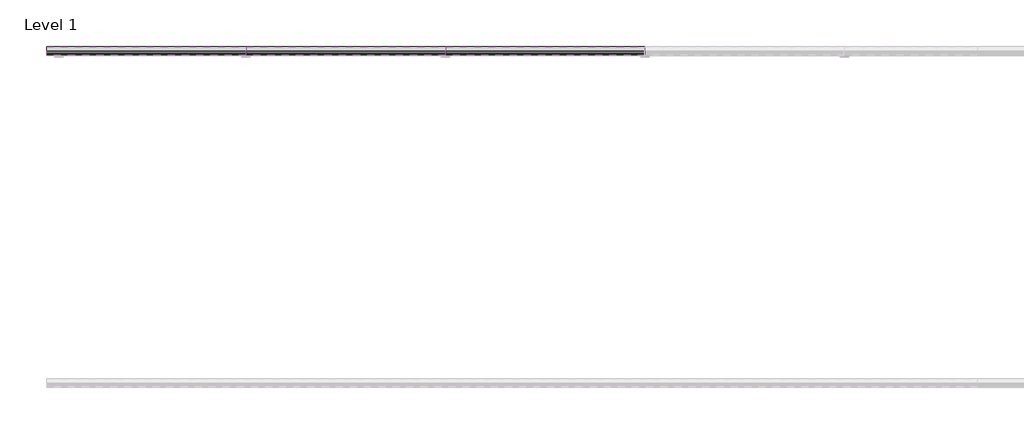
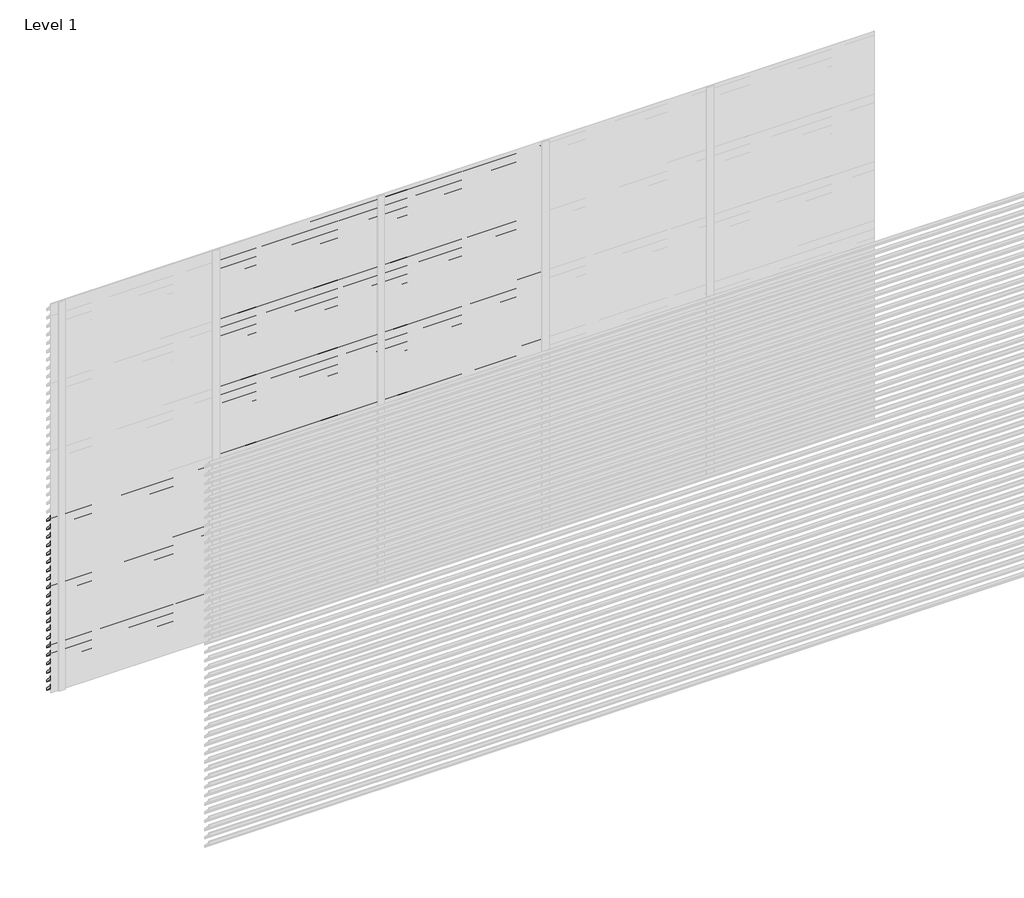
# One storey, part 11 of 12: 102 proxies.
"""IFC4 building model written with IfcOpenShell, lengths in millimetres."""

from ifc_helpers import new_model, si_unit, frame, origin, place, context, project, spatial, polyline, outline, extrude, element, save

model = new_model("IFC4")

# Units and contexts
model_context = context("Model", 3, world=origin())
ifc_project = project(units=[si_unit("LENGTHUNIT", "METRE", prefix="MILLI")], contexts=[model_context])

# Site, building, storey
site = spatial("IfcSite", under=ifc_project)
building = spatial("IfcBuilding", under=site)
storey = spatial("IfcBuildingStorey", under=building, Name="Level 1", Elevation=0.0)

# Proxies
placement = place(None, origin())
element("IfcBuildingElementProxy", 1, Name="Wall Sweeps", at=placement, inside=storey, context=model_context, shape_type="SweptSolid", body=[
    extrude(outline(polyline([(5.0, 1365.0), (5.0, 1355.7409854), (54.0, 1305.0), (54.0, 1289.0), (3.0, 1341.812046), (3.0, 1365.0), (5.0, 1365.0)])), frame((0.0, 0.0, 0.0), z_axis=(1.0, 0.0, 0.0), x_axis=(0.0, 1.0, 0.0)), (0.0, 0.0, 1.0), 1200.0),
])
element("IfcBuildingElementProxy", 2, Name="Wall Sweeps", at=placement, inside=storey, context=model_context, shape_type="SweptSolid", body=[
    extrude(outline(polyline([(5.0, 1300.0), (5.0, 1290.7409854), (54.0, 1240.0), (54.0, 1224.0), (3.0, 1276.812046), (3.0, 1300.0), (5.0, 1300.0)])), frame((0.0, 0.0, 0.0), z_axis=(1.0, 0.0, 0.0), x_axis=(0.0, 1.0, 0.0)), (0.0, 0.0, 1.0), 1200.0),
])
element("IfcBuildingElementProxy", 3, Name="Wall Sweeps", at=placement, inside=storey, context=model_context, shape_type="SweptSolid", body=[
    extrude(outline(polyline([(5.0, 1235.0), (5.0, 1225.7409854), (54.0, 1175.0), (54.0, 1159.0), (3.0, 1211.812046), (3.0, 1235.0), (5.0, 1235.0)])), frame((0.0, 0.0, 0.0), z_axis=(1.0, 0.0, 0.0), x_axis=(0.0, 1.0, 0.0)), (0.0, 0.0, 1.0), 1200.0),
])
element("IfcBuildingElementProxy", 4, Name="Wall Sweeps", at=placement, inside=storey, context=model_context, shape_type="SweptSolid", body=[
    extrude(outline(polyline([(5.0, 1170.0), (5.0, 1160.7409854), (54.0, 1110.0), (54.0, 1094.0), (3.0, 1146.812046), (3.0, 1170.0), (5.0, 1170.0)])), frame((0.0, 0.0, 0.0), z_axis=(1.0, 0.0, 0.0), x_axis=(0.0, 1.0, 0.0)), (0.0, 0.0, 1.0), 1200.0),
])
element("IfcBuildingElementProxy", 5, Name="Wall Sweeps", at=placement, inside=storey, context=model_context, shape_type="SweptSolid", body=[
    extrude(outline(polyline([(5.0, 1105.0), (5.0, 1095.7409854), (54.0, 1045.0), (54.0, 1029.0), (3.0, 1081.812046), (3.0, 1105.0), (5.0, 1105.0)])), frame((0.0, 0.0, 0.0), z_axis=(1.0, 0.0, 0.0), x_axis=(0.0, 1.0, 0.0)), (0.0, 0.0, 1.0), 1200.0),
])
element("IfcBuildingElementProxy", 6, Name="Wall Sweeps", at=placement, inside=storey, context=model_context, shape_type="SweptSolid", body=[
    extrude(outline(polyline([(5.0, 1040.0), (5.0, 1030.7409854), (54.0, 980.0), (54.0, 964.0), (3.0, 1016.812046), (3.0, 1040.0), (5.0, 1040.0)])), frame((0.0, 0.0, 0.0), z_axis=(1.0, 0.0, 0.0), x_axis=(0.0, 1.0, 0.0)), (0.0, 0.0, 1.0), 1200.0),
])
element("IfcBuildingElementProxy", 7, Name="Wall Sweeps", at=placement, inside=storey, context=model_context, shape_type="SweptSolid", body=[
    extrude(outline(polyline([(5.0, 975.0), (5.0, 965.7409854), (54.0, 915.0), (54.0, 899.0), (3.0, 951.812046), (3.0, 975.0), (5.0, 975.0)])), frame((0.0, 0.0, 0.0), z_axis=(1.0, 0.0, 0.0), x_axis=(0.0, 1.0, 0.0)), (0.0, 0.0, 1.0), 1200.0),
])
element("IfcBuildingElementProxy", 8, Name="Wall Sweeps", at=placement, inside=storey, context=model_context, shape_type="SweptSolid", body=[
    extrude(outline(polyline([(5.0, 910.0), (5.0, 900.7409854), (54.0, 850.0), (54.0, 834.0), (3.0, 886.812046), (3.0, 910.0), (5.0, 910.0)])), frame((0.0, 0.0, 0.0), z_axis=(1.0, 0.0, 0.0), x_axis=(0.0, 1.0, 0.0)), (0.0, 0.0, 1.0), 1200.0),
])
element("IfcBuildingElementProxy", 9, Name="Wall Sweeps", at=placement, inside=storey, context=model_context, shape_type="SweptSolid", body=[
    extrude(outline(polyline([(5.0, 845.0), (5.0, 835.7409854), (54.0, 785.0), (54.0, 769.0), (3.0, 821.812046), (3.0, 845.0), (5.0, 845.0)])), frame((0.0, 0.0, 0.0), z_axis=(1.0, 0.0, 0.0), x_axis=(0.0, 1.0, 0.0)), (0.0, 0.0, 1.0), 1200.0),
])
element("IfcBuildingElementProxy", 10, Name="Wall Sweeps", at=placement, inside=storey, context=model_context, shape_type="SweptSolid", body=[
    extrude(outline(polyline([(5.0, 780.0), (5.0, 770.7409854), (54.0, 720.0), (54.0, 704.0), (3.0, 756.812046), (3.0, 780.0), (5.0, 780.0)])), frame((0.0, 0.0, 0.0), z_axis=(1.0, 0.0, 0.0), x_axis=(0.0, 1.0, 0.0)), (0.0, 0.0, 1.0), 1200.0),
])
element("IfcBuildingElementProxy", 11, Name="Wall Sweeps", at=placement, inside=storey, context=model_context, shape_type="SweptSolid", body=[
    extrude(outline(polyline([(5.0, 715.0), (5.0, 705.7409854), (54.0, 655.0), (54.0, 639.0), (3.0, 691.812046), (3.0, 715.0), (5.0, 715.0)])), frame((0.0, 0.0, 0.0), z_axis=(1.0, 0.0, 0.0), x_axis=(0.0, 1.0, 0.0)), (0.0, 0.0, 1.0), 1200.0),
])
element("IfcBuildingElementProxy", 12, Name="Wall Sweeps", at=placement, inside=storey, context=model_context, shape_type="SweptSolid", body=[
    extrude(outline(polyline([(5.0, 650.0), (5.0, 640.7409854), (54.0, 590.0), (54.0, 574.0), (3.0, 626.812046), (3.0, 650.0), (5.0, 650.0)])), frame((0.0, 0.0, 0.0), z_axis=(1.0, 0.0, 0.0), x_axis=(0.0, 1.0, 0.0)), (0.0, 0.0, 1.0), 1200.0),
])
element("IfcBuildingElementProxy", 13, Name="Wall Sweeps", at=placement, inside=storey, context=model_context, shape_type="SweptSolid", body=[
    extrude(outline(polyline([(5.0, 585.0), (5.0, 575.7409854), (54.0, 525.0), (54.0, 509.0), (3.0, 561.812046), (3.0, 585.0), (5.0, 585.0)])), frame((0.0, 0.0, 0.0), z_axis=(1.0, 0.0, 0.0), x_axis=(0.0, 1.0, 0.0)), (0.0, 0.0, 1.0), 1200.0),
])
element("IfcBuildingElementProxy", 14, Name="Wall Sweeps", at=placement, inside=storey, context=model_context, shape_type="SweptSolid", body=[
    extrude(outline(polyline([(5.0, 520.0), (5.0, 510.7409854), (54.0, 460.0), (54.0, 444.0), (3.0, 496.812046), (3.0, 520.0), (5.0, 520.0)])), frame((0.0, 0.0, 0.0), z_axis=(1.0, 0.0, 0.0), x_axis=(0.0, 1.0, 0.0)), (0.0, 0.0, 1.0), 1200.0),
])
element("IfcBuildingElementProxy", 15, Name="Wall Sweeps", at=placement, inside=storey, context=model_context, shape_type="SweptSolid", body=[
    extrude(outline(polyline([(5.0, 455.0), (5.0, 445.7409854), (54.0, 395.0), (54.0, 379.0), (3.0, 431.812046), (3.0, 455.0), (5.0, 455.0)])), frame((0.0, 0.0, 0.0), z_axis=(1.0, 0.0, 0.0), x_axis=(0.0, 1.0, 0.0)), (0.0, 0.0, 1.0), 1200.0),
])
element("IfcBuildingElementProxy", 16, Name="Wall Sweeps", at=placement, inside=storey, context=model_context, shape_type="SweptSolid", body=[
    extrude(outline(polyline([(5.0, 390.0), (5.0, 380.7409854), (54.0, 330.0), (54.0, 314.0), (3.0, 366.812046), (3.0, 390.0), (5.0, 390.0)])), frame((0.0, 0.0, 0.0), z_axis=(1.0, 0.0, 0.0), x_axis=(0.0, 1.0, 0.0)), (0.0, 0.0, 1.0), 1200.0),
])
element("IfcBuildingElementProxy", 17, Name="Wall Sweeps", at=placement, inside=storey, context=model_context, shape_type="SweptSolid", body=[
    extrude(outline(polyline([(5.0, 325.0), (5.0, 315.7409854), (54.0, 265.0), (54.0, 249.0), (3.0, 301.812046), (3.0, 325.0), (5.0, 325.0)])), frame((0.0, 0.0, 0.0), z_axis=(1.0, 0.0, 0.0), x_axis=(0.0, 1.0, 0.0)), (0.0, 0.0, 1.0), 1200.0),
])
element("IfcBuildingElementProxy", 18, Name="Wall Sweeps", at=placement, inside=storey, context=model_context, shape_type="SweptSolid", body=[
    extrude(outline(polyline([(5.0, 260.0), (5.0, 250.7409854), (54.0, 200.0), (54.0, 184.0), (3.0, 236.812046), (3.0, 260.0), (5.0, 260.0)])), frame((0.0, 0.0, 0.0), z_axis=(1.0, 0.0, 0.0), x_axis=(0.0, 1.0, 0.0)), (0.0, 0.0, 1.0), 1200.0),
])
element("IfcBuildingElementProxy", 19, Name="Wall Sweeps", at=placement, inside=storey, context=model_context, shape_type="SweptSolid", body=[
    extrude(outline(polyline([(5.0, 195.0), (5.0, 185.7409854), (54.0, 135.0), (54.0, 119.0), (3.0, 171.812046), (3.0, 195.0), (5.0, 195.0)])), frame((0.0, 0.0, 0.0), z_axis=(1.0, 0.0, 0.0), x_axis=(0.0, 1.0, 0.0)), (0.0, 0.0, 1.0), 1200.0),
])
element("IfcBuildingElementProxy", 20, Name="Wall Sweeps", at=placement, inside=storey, context=model_context, shape_type="SweptSolid", body=[
    extrude(outline(polyline([(5.0, 130.0), (5.0, 120.7409854), (54.0, 70.0), (54.0, 54.0), (3.0, 106.812046), (3.0, 130.0), (5.0, 130.0)])), frame((0.0, 0.0, 0.0), z_axis=(1.0, 0.0, 0.0), x_axis=(0.0, 1.0, 0.0)), (0.0, 0.0, 1.0), 1200.0),
])
element("IfcBuildingElementProxy", 21, Name="Wall Sweeps", at=placement, inside=storey, context=model_context, shape_type="SweptSolid", body=[
    extrude(outline(polyline([(5.0, 65.0), (5.0, 55.7409854), (54.0, 5.0), (54.0, -11.0), (3.0, 41.812046), (3.0, 65.0), (5.0, 65.0)])), frame((0.0, 0.0, 0.0), z_axis=(1.0, 0.0, 0.0), x_axis=(0.0, 1.0, 0.0)), (0.0, 0.0, 1.0), 1200.0),
])
element("IfcBuildingElementProxy", 22, Name="Wall Sweeps", at=placement, inside=storey, context=model_context, shape_type="SweptSolid", body=[
    extrude(outline(polyline([(5.0, 2990.0), (5.0, 2980.7409854), (54.0, 2930.0), (54.0, 2914.0), (3.0, 2966.812046), (3.0, 2990.0), (5.0, 2990.0)])), frame((1200.0, 0.0, 0.0), z_axis=(1.0, 0.0, 0.0), x_axis=(0.0, 1.0, 0.0)), (0.0, 0.0, 1.0), 1200.0),
])
element("IfcBuildingElementProxy", 23, Name="Wall Sweeps", at=placement, inside=storey, context=model_context, shape_type="SweptSolid", body=[
    extrude(outline(polyline([(5.0, 2925.0), (5.0, 2915.7409854), (54.0, 2865.0), (54.0, 2849.0), (3.0, 2901.812046), (3.0, 2925.0), (5.0, 2925.0)])), frame((1200.0, 0.0, 0.0), z_axis=(1.0, 0.0, 0.0), x_axis=(0.0, 1.0, 0.0)), (0.0, 0.0, 1.0), 1200.0),
])
element("IfcBuildingElementProxy", 24, Name="Wall Sweeps", at=placement, inside=storey, context=model_context, shape_type="SweptSolid", body=[
    extrude(outline(polyline([(5.0, 2860.0), (5.0, 2850.7409854), (54.0, 2800.0), (54.0, 2784.0), (3.0, 2836.812046), (3.0, 2860.0), (5.0, 2860.0)])), frame((1200.0, 0.0, 0.0), z_axis=(1.0, 0.0, 0.0), x_axis=(0.0, 1.0, 0.0)), (0.0, 0.0, 1.0), 1200.0),
])
element("IfcBuildingElementProxy", 25, Name="Wall Sweeps", at=placement, inside=storey, context=model_context, shape_type="SweptSolid", body=[
    extrude(outline(polyline([(5.0, 2795.0), (5.0, 2785.7409854), (54.0, 2735.0), (54.0, 2719.0), (3.0, 2771.812046), (3.0, 2795.0), (5.0, 2795.0)])), frame((1200.0, 0.0, 0.0), z_axis=(1.0, 0.0, 0.0), x_axis=(0.0, 1.0, 0.0)), (0.0, 0.0, 1.0), 1200.0),
])
element("IfcBuildingElementProxy", 26, Name="Wall Sweeps", at=placement, inside=storey, context=model_context, shape_type="SweptSolid", body=[
    extrude(outline(polyline([(5.0, 2730.0), (5.0, 2720.7409854), (54.0, 2670.0), (54.0, 2654.0), (3.0, 2706.812046), (3.0, 2730.0), (5.0, 2730.0)])), frame((1200.0, 0.0, 0.0), z_axis=(1.0, 0.0, 0.0), x_axis=(0.0, 1.0, 0.0)), (0.0, 0.0, 1.0), 1200.0),
])
element("IfcBuildingElementProxy", 27, Name="Wall Sweeps", at=placement, inside=storey, context=model_context, shape_type="SweptSolid", body=[
    extrude(outline(polyline([(5.0, 2665.0), (5.0, 2655.7409854), (54.0, 2605.0), (54.0, 2589.0), (3.0, 2641.812046), (3.0, 2665.0), (5.0, 2665.0)])), frame((1200.0, 0.0, 0.0), z_axis=(1.0, 0.0, 0.0), x_axis=(0.0, 1.0, 0.0)), (0.0, 0.0, 1.0), 1200.0),
])
element("IfcBuildingElementProxy", 28, Name="Wall Sweeps", at=placement, inside=storey, context=model_context, shape_type="SweptSolid", body=[
    extrude(outline(polyline([(5.0, 2600.0), (5.0, 2590.7409854), (54.0, 2540.0), (54.0, 2524.0), (3.0, 2576.812046), (3.0, 2600.0), (5.0, 2600.0)])), frame((1200.0, 0.0, 0.0), z_axis=(1.0, 0.0, 0.0), x_axis=(0.0, 1.0, 0.0)), (0.0, 0.0, 1.0), 1200.0),
])
element("IfcBuildingElementProxy", 29, Name="Wall Sweeps", at=placement, inside=storey, context=model_context, shape_type="SweptSolid", body=[
    extrude(outline(polyline([(5.0, 2535.0), (5.0, 2525.7409854), (54.0, 2475.0), (54.0, 2459.0), (3.0, 2511.812046), (3.0, 2535.0), (5.0, 2535.0)])), frame((1200.0, 0.0, 0.0), z_axis=(1.0, 0.0, 0.0), x_axis=(0.0, 1.0, 0.0)), (0.0, 0.0, 1.0), 1200.0),
])
element("IfcBuildingElementProxy", 30, Name="Wall Sweeps", at=placement, inside=storey, context=model_context, shape_type="SweptSolid", body=[
    extrude(outline(polyline([(5.0, 2470.0), (5.0, 2460.7409854), (54.0, 2410.0), (54.0, 2394.0), (3.0, 2446.812046), (3.0, 2470.0), (5.0, 2470.0)])), frame((1200.0, 0.0, 0.0), z_axis=(1.0, 0.0, 0.0), x_axis=(0.0, 1.0, 0.0)), (0.0, 0.0, 1.0), 1200.0),
])
element("IfcBuildingElementProxy", 31, Name="Wall Sweeps", at=placement, inside=storey, context=model_context, shape_type="SweptSolid", body=[
    extrude(outline(polyline([(5.0, 2405.0), (5.0, 2395.7409854), (54.0, 2345.0), (54.0, 2329.0), (3.0, 2381.812046), (3.0, 2405.0), (5.0, 2405.0)])), frame((1200.0, 0.0, 0.0), z_axis=(1.0, 0.0, 0.0), x_axis=(0.0, 1.0, 0.0)), (0.0, 0.0, 1.0), 1200.0),
])
element("IfcBuildingElementProxy", 32, Name="Wall Sweeps", at=placement, inside=storey, context=model_context, shape_type="SweptSolid", body=[
    extrude(outline(polyline([(5.0, 2340.0), (5.0, 2330.7409854), (54.0, 2280.0), (54.0, 2264.0), (3.0, 2316.812046), (3.0, 2340.0), (5.0, 2340.0)])), frame((1200.0, 0.0, 0.0), z_axis=(1.0, 0.0, 0.0), x_axis=(0.0, 1.0, 0.0)), (0.0, 0.0, 1.0), 1200.0),
])
element("IfcBuildingElementProxy", 33, Name="Wall Sweeps", at=placement, inside=storey, context=model_context, shape_type="SweptSolid", body=[
    extrude(outline(polyline([(5.0, 2275.0), (5.0, 2265.7409854), (54.0, 2215.0), (54.0, 2199.0), (3.0, 2251.812046), (3.0, 2275.0), (5.0, 2275.0)])), frame((1200.0, 0.0, 0.0), z_axis=(1.0, 0.0, 0.0), x_axis=(0.0, 1.0, 0.0)), (0.0, 0.0, 1.0), 1200.0),
])
element("IfcBuildingElementProxy", 34, Name="Wall Sweeps", at=placement, inside=storey, context=model_context, shape_type="SweptSolid", body=[
    extrude(outline(polyline([(5.0, 2210.0), (5.0, 2200.7409854), (54.0, 2150.0), (54.0, 2134.0), (3.0, 2186.812046), (3.0, 2210.0), (5.0, 2210.0)])), frame((1200.0, 0.0, 0.0), z_axis=(1.0, 0.0, 0.0), x_axis=(0.0, 1.0, 0.0)), (0.0, 0.0, 1.0), 1200.0),
])
element("IfcBuildingElementProxy", 35, Name="Wall Sweeps", at=placement, inside=storey, context=model_context, shape_type="SweptSolid", body=[
    extrude(outline(polyline([(5.0, 2145.0), (5.0, 2135.7409854), (54.0, 2085.0), (54.0, 2069.0), (3.0, 2121.812046), (3.0, 2145.0), (5.0, 2145.0)])), frame((1200.0, 0.0, 0.0), z_axis=(1.0, 0.0, 0.0), x_axis=(0.0, 1.0, 0.0)), (0.0, 0.0, 1.0), 1200.0),
])
element("IfcBuildingElementProxy", 36, Name="Wall Sweeps", at=placement, inside=storey, context=model_context, shape_type="SweptSolid", body=[
    extrude(outline(polyline([(5.0, 2080.0), (5.0, 2070.7409854), (54.0, 2020.0), (54.0, 2004.0), (3.0, 2056.812046), (3.0, 2080.0), (5.0, 2080.0)])), frame((1200.0, 0.0, 0.0), z_axis=(1.0, 0.0, 0.0), x_axis=(0.0, 1.0, 0.0)), (0.0, 0.0, 1.0), 1200.0),
])
element("IfcBuildingElementProxy", 37, Name="Wall Sweeps", at=placement, inside=storey, context=model_context, shape_type="SweptSolid", body=[
    extrude(outline(polyline([(5.0, 2015.0), (5.0, 2005.7409854), (54.0, 1955.0), (54.0, 1939.0), (3.0, 1991.812046), (3.0, 2015.0), (5.0, 2015.0)])), frame((1200.0, 0.0, 0.0), z_axis=(1.0, 0.0, 0.0), x_axis=(0.0, 1.0, 0.0)), (0.0, 0.0, 1.0), 1200.0),
])
element("IfcBuildingElementProxy", 38, Name="Wall Sweeps", at=placement, inside=storey, context=model_context, shape_type="SweptSolid", body=[
    extrude(outline(polyline([(5.0, 1950.0), (5.0, 1940.7409854), (54.0, 1890.0), (54.0, 1874.0), (3.0, 1926.812046), (3.0, 1950.0), (5.0, 1950.0)])), frame((1200.0, 0.0, 0.0), z_axis=(1.0, 0.0, 0.0), x_axis=(0.0, 1.0, 0.0)), (0.0, 0.0, 1.0), 1200.0),
])
element("IfcBuildingElementProxy", 39, Name="Wall Sweeps", at=placement, inside=storey, context=model_context, shape_type="SweptSolid", body=[
    extrude(outline(polyline([(5.0, 1885.0), (5.0, 1875.7409854), (54.0, 1825.0), (54.0, 1809.0), (3.0, 1861.812046), (3.0, 1885.0), (5.0, 1885.0)])), frame((1200.0, 0.0, 0.0), z_axis=(1.0, 0.0, 0.0), x_axis=(0.0, 1.0, 0.0)), (0.0, 0.0, 1.0), 1200.0),
])
element("IfcBuildingElementProxy", 40, Name="Wall Sweeps", at=placement, inside=storey, context=model_context, shape_type="SweptSolid", body=[
    extrude(outline(polyline([(5.0, 1820.0), (5.0, 1810.7409854), (54.0, 1760.0), (54.0, 1744.0), (3.0, 1796.812046), (3.0, 1820.0), (5.0, 1820.0)])), frame((1200.0, 0.0, 0.0), z_axis=(1.0, 0.0, 0.0), x_axis=(0.0, 1.0, 0.0)), (0.0, 0.0, 1.0), 1200.0),
])
element("IfcBuildingElementProxy", 41, Name="Wall Sweeps", at=placement, inside=storey, context=model_context, shape_type="SweptSolid", body=[
    extrude(outline(polyline([(5.0, 1755.0), (5.0, 1745.7409854), (54.0, 1695.0), (54.0, 1679.0), (3.0, 1731.812046), (3.0, 1755.0), (5.0, 1755.0)])), frame((1200.0, 0.0, 0.0), z_axis=(1.0, 0.0, 0.0), x_axis=(0.0, 1.0, 0.0)), (0.0, 0.0, 1.0), 1200.0),
])
element("IfcBuildingElementProxy", 42, Name="Wall Sweeps", at=placement, inside=storey, context=model_context, shape_type="SweptSolid", body=[
    extrude(outline(polyline([(5.0, 1690.0), (5.0, 1680.7409854), (54.0, 1630.0), (54.0, 1614.0), (3.0, 1666.812046), (3.0, 1690.0), (5.0, 1690.0)])), frame((1200.0, 0.0, 0.0), z_axis=(1.0, 0.0, 0.0), x_axis=(0.0, 1.0, 0.0)), (0.0, 0.0, 1.0), 1200.0),
])
element("IfcBuildingElementProxy", 43, Name="Wall Sweeps", at=placement, inside=storey, context=model_context, shape_type="SweptSolid", body=[
    extrude(outline(polyline([(5.0, 1625.0), (5.0, 1615.7409854), (54.0, 1565.0), (54.0, 1549.0), (3.0, 1601.812046), (3.0, 1625.0), (5.0, 1625.0)])), frame((1200.0, 0.0, 0.0), z_axis=(1.0, 0.0, 0.0), x_axis=(0.0, 1.0, 0.0)), (0.0, 0.0, 1.0), 1200.0),
])
element("IfcBuildingElementProxy", 44, Name="Wall Sweeps", at=placement, inside=storey, context=model_context, shape_type="SweptSolid", body=[
    extrude(outline(polyline([(5.0, 1560.0), (5.0, 1550.7409854), (54.0, 1500.0), (54.0, 1484.0), (3.0, 1536.812046), (3.0, 1560.0), (5.0, 1560.0)])), frame((1200.0, 0.0, 0.0), z_axis=(1.0, 0.0, 0.0), x_axis=(0.0, 1.0, 0.0)), (0.0, 0.0, 1.0), 1200.0),
])
element("IfcBuildingElementProxy", 45, Name="Wall Sweeps", at=placement, inside=storey, context=model_context, shape_type="SweptSolid", body=[
    extrude(outline(polyline([(5.0, 1495.0), (5.0, 1485.7409854), (54.0, 1435.0), (54.0, 1419.0), (3.0, 1471.812046), (3.0, 1495.0), (5.0, 1495.0)])), frame((1200.0, 0.0, 0.0), z_axis=(1.0, 0.0, 0.0), x_axis=(0.0, 1.0, 0.0)), (0.0, 0.0, 1.0), 1200.0),
])
element("IfcBuildingElementProxy", 46, Name="Wall Sweeps", at=placement, inside=storey, context=model_context, shape_type="SweptSolid", body=[
    extrude(outline(polyline([(5.0, 1430.0), (5.0, 1420.7409854), (54.0, 1370.0), (54.0, 1354.0), (3.0, 1406.812046), (3.0, 1430.0), (5.0, 1430.0)])), frame((1200.0, 0.0, 0.0), z_axis=(1.0, 0.0, 0.0), x_axis=(0.0, 1.0, 0.0)), (0.0, 0.0, 1.0), 1200.0),
])
element("IfcBuildingElementProxy", 47, Name="Wall Sweeps", at=placement, inside=storey, context=model_context, shape_type="SweptSolid", body=[
    extrude(outline(polyline([(5.0, 1365.0), (5.0, 1355.7409854), (54.0, 1305.0), (54.0, 1289.0), (3.0, 1341.812046), (3.0, 1365.0), (5.0, 1365.0)])), frame((1200.0, 0.0, 0.0), z_axis=(1.0, 0.0, 0.0), x_axis=(0.0, 1.0, 0.0)), (0.0, 0.0, 1.0), 1200.0),
])
element("IfcBuildingElementProxy", 48, Name="Wall Sweeps", at=placement, inside=storey, context=model_context, shape_type="SweptSolid", body=[
    extrude(outline(polyline([(5.0, 1300.0), (5.0, 1290.7409854), (54.0, 1240.0), (54.0, 1224.0), (3.0, 1276.812046), (3.0, 1300.0), (5.0, 1300.0)])), frame((1200.0, 0.0, 0.0), z_axis=(1.0, 0.0, 0.0), x_axis=(0.0, 1.0, 0.0)), (0.0, 0.0, 1.0), 1200.0),
])
element("IfcBuildingElementProxy", 49, Name="Wall Sweeps", at=placement, inside=storey, context=model_context, shape_type="SweptSolid", body=[
    extrude(outline(polyline([(5.0, 1235.0), (5.0, 1225.7409854), (54.0, 1175.0), (54.0, 1159.0), (3.0, 1211.812046), (3.0, 1235.0), (5.0, 1235.0)])), frame((1200.0, 0.0, 0.0), z_axis=(1.0, 0.0, 0.0), x_axis=(0.0, 1.0, 0.0)), (0.0, 0.0, 1.0), 1200.0),
])
element("IfcBuildingElementProxy", 50, Name="Wall Sweeps", at=placement, inside=storey, context=model_context, shape_type="SweptSolid", body=[
    extrude(outline(polyline([(5.0, 1170.0), (5.0, 1160.7409854), (54.0, 1110.0), (54.0, 1094.0), (3.0, 1146.812046), (3.0, 1170.0), (5.0, 1170.0)])), frame((1200.0, 0.0, 0.0), z_axis=(1.0, 0.0, 0.0), x_axis=(0.0, 1.0, 0.0)), (0.0, 0.0, 1.0), 1200.0),
])
element("IfcBuildingElementProxy", 51, Name="Wall Sweeps", at=placement, inside=storey, context=model_context, shape_type="SweptSolid", body=[
    extrude(outline(polyline([(5.0, 1105.0), (5.0, 1095.7409854), (54.0, 1045.0), (54.0, 1029.0), (3.0, 1081.812046), (3.0, 1105.0), (5.0, 1105.0)])), frame((1200.0, 0.0, 0.0), z_axis=(1.0, 0.0, 0.0), x_axis=(0.0, 1.0, 0.0)), (0.0, 0.0, 1.0), 1200.0),
])
element("IfcBuildingElementProxy", 52, Name="Wall Sweeps", at=placement, inside=storey, context=model_context, shape_type="SweptSolid", body=[
    extrude(outline(polyline([(5.0, 1040.0), (5.0, 1030.7409854), (54.0, 980.0), (54.0, 964.0), (3.0, 1016.812046), (3.0, 1040.0), (5.0, 1040.0)])), frame((1200.0, 0.0, 0.0), z_axis=(1.0, 0.0, 0.0), x_axis=(0.0, 1.0, 0.0)), (0.0, 0.0, 1.0), 1200.0),
])
element("IfcBuildingElementProxy", 53, Name="Wall Sweeps", at=placement, inside=storey, context=model_context, shape_type="SweptSolid", body=[
    extrude(outline(polyline([(5.0, 975.0), (5.0, 965.7409854), (54.0, 915.0), (54.0, 899.0), (3.0, 951.812046), (3.0, 975.0), (5.0, 975.0)])), frame((1200.0, 0.0, 0.0), z_axis=(1.0, 0.0, 0.0), x_axis=(0.0, 1.0, 0.0)), (0.0, 0.0, 1.0), 1200.0),
])
element("IfcBuildingElementProxy", 54, Name="Wall Sweeps", at=placement, inside=storey, context=model_context, shape_type="SweptSolid", body=[
    extrude(outline(polyline([(5.0, 910.0), (5.0, 900.7409854), (54.0, 850.0), (54.0, 834.0), (3.0, 886.812046), (3.0, 910.0), (5.0, 910.0)])), frame((1200.0, 0.0, 0.0), z_axis=(1.0, 0.0, 0.0), x_axis=(0.0, 1.0, 0.0)), (0.0, 0.0, 1.0), 1200.0),
])
element("IfcBuildingElementProxy", 55, Name="Wall Sweeps", at=placement, inside=storey, context=model_context, shape_type="SweptSolid", body=[
    extrude(outline(polyline([(5.0, 845.0), (5.0, 835.7409854), (54.0, 785.0), (54.0, 769.0), (3.0, 821.812046), (3.0, 845.0), (5.0, 845.0)])), frame((1200.0, 0.0, 0.0), z_axis=(1.0, 0.0, 0.0), x_axis=(0.0, 1.0, 0.0)), (0.0, 0.0, 1.0), 1200.0),
])
element("IfcBuildingElementProxy", 56, Name="Wall Sweeps", at=placement, inside=storey, context=model_context, shape_type="SweptSolid", body=[
    extrude(outline(polyline([(5.0, 780.0), (5.0, 770.7409854), (54.0, 720.0), (54.0, 704.0), (3.0, 756.812046), (3.0, 780.0), (5.0, 780.0)])), frame((1200.0, 0.0, 0.0), z_axis=(1.0, 0.0, 0.0), x_axis=(0.0, 1.0, 0.0)), (0.0, 0.0, 1.0), 1200.0),
])
element("IfcBuildingElementProxy", 57, Name="Wall Sweeps", at=placement, inside=storey, context=model_context, shape_type="SweptSolid", body=[
    extrude(outline(polyline([(5.0, 715.0), (5.0, 705.7409854), (54.0, 655.0), (54.0, 639.0), (3.0, 691.812046), (3.0, 715.0), (5.0, 715.0)])), frame((1200.0, 0.0, 0.0), z_axis=(1.0, 0.0, 0.0), x_axis=(0.0, 1.0, 0.0)), (0.0, 0.0, 1.0), 1200.0),
])
element("IfcBuildingElementProxy", 58, Name="Wall Sweeps", at=placement, inside=storey, context=model_context, shape_type="SweptSolid", body=[
    extrude(outline(polyline([(5.0, 650.0), (5.0, 640.7409854), (54.0, 590.0), (54.0, 574.0), (3.0, 626.812046), (3.0, 650.0), (5.0, 650.0)])), frame((1200.0, 0.0, 0.0), z_axis=(1.0, 0.0, 0.0), x_axis=(0.0, 1.0, 0.0)), (0.0, 0.0, 1.0), 1200.0),
])
element("IfcBuildingElementProxy", 59, Name="Wall Sweeps", at=placement, inside=storey, context=model_context, shape_type="SweptSolid", body=[
    extrude(outline(polyline([(5.0, 585.0), (5.0, 575.7409854), (54.0, 525.0), (54.0, 509.0), (3.0, 561.812046), (3.0, 585.0), (5.0, 585.0)])), frame((1200.0, 0.0, 0.0), z_axis=(1.0, 0.0, 0.0), x_axis=(0.0, 1.0, 0.0)), (0.0, 0.0, 1.0), 1200.0),
])
element("IfcBuildingElementProxy", 60, Name="Wall Sweeps", at=placement, inside=storey, context=model_context, shape_type="SweptSolid", body=[
    extrude(outline(polyline([(5.0, 520.0), (5.0, 510.7409854), (54.0, 460.0), (54.0, 444.0), (3.0, 496.812046), (3.0, 520.0), (5.0, 520.0)])), frame((1200.0, 0.0, 0.0), z_axis=(1.0, 0.0, 0.0), x_axis=(0.0, 1.0, 0.0)), (0.0, 0.0, 1.0), 1200.0),
])
element("IfcBuildingElementProxy", 61, Name="Wall Sweeps", at=placement, inside=storey, context=model_context, shape_type="SweptSolid", body=[
    extrude(outline(polyline([(5.0, 455.0), (5.0, 445.7409854), (54.0, 395.0), (54.0, 379.0), (3.0, 431.812046), (3.0, 455.0), (5.0, 455.0)])), frame((1200.0, 0.0, 0.0), z_axis=(1.0, 0.0, 0.0), x_axis=(0.0, 1.0, 0.0)), (0.0, 0.0, 1.0), 1200.0),
])
element("IfcBuildingElementProxy", 62, Name="Wall Sweeps", at=placement, inside=storey, context=model_context, shape_type="SweptSolid", body=[
    extrude(outline(polyline([(5.0, 390.0), (5.0, 380.7409854), (54.0, 330.0), (54.0, 314.0), (3.0, 366.812046), (3.0, 390.0), (5.0, 390.0)])), frame((1200.0, 0.0, 0.0), z_axis=(1.0, 0.0, 0.0), x_axis=(0.0, 1.0, 0.0)), (0.0, 0.0, 1.0), 1200.0),
])
element("IfcBuildingElementProxy", 63, Name="Wall Sweeps", at=placement, inside=storey, context=model_context, shape_type="SweptSolid", body=[
    extrude(outline(polyline([(5.0, 325.0), (5.0, 315.7409854), (54.0, 265.0), (54.0, 249.0), (3.0, 301.812046), (3.0, 325.0), (5.0, 325.0)])), frame((1200.0, 0.0, 0.0), z_axis=(1.0, 0.0, 0.0), x_axis=(0.0, 1.0, 0.0)), (0.0, 0.0, 1.0), 1200.0),
])
element("IfcBuildingElementProxy", 64, Name="Wall Sweeps", at=placement, inside=storey, context=model_context, shape_type="SweptSolid", body=[
    extrude(outline(polyline([(5.0, 260.0), (5.0, 250.7409854), (54.0, 200.0), (54.0, 184.0), (3.0, 236.812046), (3.0, 260.0), (5.0, 260.0)])), frame((1200.0, 0.0, 0.0), z_axis=(1.0, 0.0, 0.0), x_axis=(0.0, 1.0, 0.0)), (0.0, 0.0, 1.0), 1200.0),
])
element("IfcBuildingElementProxy", 65, Name="Wall Sweeps", at=placement, inside=storey, context=model_context, shape_type="SweptSolid", body=[
    extrude(outline(polyline([(5.0, 195.0), (5.0, 185.7409854), (54.0, 135.0), (54.0, 119.0), (3.0, 171.812046), (3.0, 195.0), (5.0, 195.0)])), frame((1200.0, 0.0, 0.0), z_axis=(1.0, 0.0, 0.0), x_axis=(0.0, 1.0, 0.0)), (0.0, 0.0, 1.0), 1200.0),
])
element("IfcBuildingElementProxy", 66, Name="Wall Sweeps", at=placement, inside=storey, context=model_context, shape_type="SweptSolid", body=[
    extrude(outline(polyline([(5.0, 130.0), (5.0, 120.7409854), (54.0, 70.0), (54.0, 54.0), (3.0, 106.812046), (3.0, 130.0), (5.0, 130.0)])), frame((1200.0, 0.0, 0.0), z_axis=(1.0, 0.0, 0.0), x_axis=(0.0, 1.0, 0.0)), (0.0, 0.0, 1.0), 1200.0),
])
element("IfcBuildingElementProxy", 67, Name="Wall Sweeps", at=placement, inside=storey, context=model_context, shape_type="SweptSolid", body=[
    extrude(outline(polyline([(5.0, 65.0), (5.0, 55.7409854), (54.0, 5.0), (54.0, -11.0), (3.0, 41.812046), (3.0, 65.0), (5.0, 65.0)])), frame((1200.0, 0.0, 0.0), z_axis=(1.0, 0.0, 0.0), x_axis=(0.0, 1.0, 0.0)), (0.0, 0.0, 1.0), 1200.0),
])
element("IfcBuildingElementProxy", 68, Name="Wall Sweeps", at=placement, inside=storey, context=model_context, shape_type="SweptSolid", body=[
    extrude(outline(polyline([(5.0, 2990.0), (5.0, 2980.7409854), (54.0, 2930.0), (54.0, 2914.0), (3.0, 2966.812046), (3.0, 2990.0), (5.0, 2990.0)])), frame((2400.0, 0.0, 0.0), z_axis=(1.0, 0.0, 0.0), x_axis=(0.0, 1.0, 0.0)), (0.0, 0.0, 1.0), 1200.0),
])
element("IfcBuildingElementProxy", 69, Name="Wall Sweeps", at=placement, inside=storey, context=model_context, shape_type="SweptSolid", body=[
    extrude(outline(polyline([(5.0, 2925.0), (5.0, 2915.7409854), (54.0, 2865.0), (54.0, 2849.0), (3.0, 2901.812046), (3.0, 2925.0), (5.0, 2925.0)])), frame((2400.0, 0.0, 0.0), z_axis=(1.0, 0.0, 0.0), x_axis=(0.0, 1.0, 0.0)), (0.0, 0.0, 1.0), 1200.0),
])
element("IfcBuildingElementProxy", 70, Name="Wall Sweeps", at=placement, inside=storey, context=model_context, shape_type="SweptSolid", body=[
    extrude(outline(polyline([(5.0, 2860.0), (5.0, 2850.7409854), (54.0, 2800.0), (54.0, 2784.0), (3.0, 2836.812046), (3.0, 2860.0), (5.0, 2860.0)])), frame((2400.0, 0.0, 0.0), z_axis=(1.0, 0.0, 0.0), x_axis=(0.0, 1.0, 0.0)), (0.0, 0.0, 1.0), 1200.0),
])
element("IfcBuildingElementProxy", 71, Name="Wall Sweeps", at=placement, inside=storey, context=model_context, shape_type="SweptSolid", body=[
    extrude(outline(polyline([(5.0, 2795.0), (5.0, 2785.7409854), (54.0, 2735.0), (54.0, 2719.0), (3.0, 2771.812046), (3.0, 2795.0), (5.0, 2795.0)])), frame((2400.0, 0.0, 0.0), z_axis=(1.0, 0.0, 0.0), x_axis=(0.0, 1.0, 0.0)), (0.0, 0.0, 1.0), 1200.0),
])
element("IfcBuildingElementProxy", 72, Name="Wall Sweeps", at=placement, inside=storey, context=model_context, shape_type="SweptSolid", body=[
    extrude(outline(polyline([(5.0, 2730.0), (5.0, 2720.7409854), (54.0, 2670.0), (54.0, 2654.0), (3.0, 2706.812046), (3.0, 2730.0), (5.0, 2730.0)])), frame((2400.0, 0.0, 0.0), z_axis=(1.0, 0.0, 0.0), x_axis=(0.0, 1.0, 0.0)), (0.0, 0.0, 1.0), 1200.0),
])
element("IfcBuildingElementProxy", 73, Name="Wall Sweeps", at=placement, inside=storey, context=model_context, shape_type="SweptSolid", body=[
    extrude(outline(polyline([(5.0, 2665.0), (5.0, 2655.7409854), (54.0, 2605.0), (54.0, 2589.0), (3.0, 2641.812046), (3.0, 2665.0), (5.0, 2665.0)])), frame((2400.0, 0.0, 0.0), z_axis=(1.0, 0.0, 0.0), x_axis=(0.0, 1.0, 0.0)), (0.0, 0.0, 1.0), 1200.0),
])
element("IfcBuildingElementProxy", 74, Name="Wall Sweeps", at=placement, inside=storey, context=model_context, shape_type="SweptSolid", body=[
    extrude(outline(polyline([(5.0, 2600.0), (5.0, 2590.7409854), (54.0, 2540.0), (54.0, 2524.0), (3.0, 2576.812046), (3.0, 2600.0), (5.0, 2600.0)])), frame((2400.0, 0.0, 0.0), z_axis=(1.0, 0.0, 0.0), x_axis=(0.0, 1.0, 0.0)), (0.0, 0.0, 1.0), 1200.0),
])
element("IfcBuildingElementProxy", 75, Name="Wall Sweeps", at=placement, inside=storey, context=model_context, shape_type="SweptSolid", body=[
    extrude(outline(polyline([(5.0, 2535.0), (5.0, 2525.7409854), (54.0, 2475.0), (54.0, 2459.0), (3.0, 2511.812046), (3.0, 2535.0), (5.0, 2535.0)])), frame((2400.0, 0.0, 0.0), z_axis=(1.0, 0.0, 0.0), x_axis=(0.0, 1.0, 0.0)), (0.0, 0.0, 1.0), 1200.0),
])
element("IfcBuildingElementProxy", 76, Name="Wall Sweeps", at=placement, inside=storey, context=model_context, shape_type="SweptSolid", body=[
    extrude(outline(polyline([(5.0, 2470.0), (5.0, 2460.7409854), (54.0, 2410.0), (54.0, 2394.0), (3.0, 2446.812046), (3.0, 2470.0), (5.0, 2470.0)])), frame((2400.0, 0.0, 0.0), z_axis=(1.0, 0.0, 0.0), x_axis=(0.0, 1.0, 0.0)), (0.0, 0.0, 1.0), 1200.0),
])
element("IfcBuildingElementProxy", 77, Name="Wall Sweeps", at=placement, inside=storey, context=model_context, shape_type="SweptSolid", body=[
    extrude(outline(polyline([(5.0, 2405.0), (5.0, 2395.7409854), (54.0, 2345.0), (54.0, 2329.0), (3.0, 2381.812046), (3.0, 2405.0), (5.0, 2405.0)])), frame((2400.0, 0.0, 0.0), z_axis=(1.0, 0.0, 0.0), x_axis=(0.0, 1.0, 0.0)), (0.0, 0.0, 1.0), 1200.0),
])
element("IfcBuildingElementProxy", 78, Name="Wall Sweeps", at=placement, inside=storey, context=model_context, shape_type="SweptSolid", body=[
    extrude(outline(polyline([(5.0, 2340.0), (5.0, 2330.7409854), (54.0, 2280.0), (54.0, 2264.0), (3.0, 2316.812046), (3.0, 2340.0), (5.0, 2340.0)])), frame((2400.0, 0.0, 0.0), z_axis=(1.0, 0.0, 0.0), x_axis=(0.0, 1.0, 0.0)), (0.0, 0.0, 1.0), 1200.0),
])
element("IfcBuildingElementProxy", 79, Name="Wall Sweeps", at=placement, inside=storey, context=model_context, shape_type="SweptSolid", body=[
    extrude(outline(polyline([(5.0, 2275.0), (5.0, 2265.7409854), (54.0, 2215.0), (54.0, 2199.0), (3.0, 2251.812046), (3.0, 2275.0), (5.0, 2275.0)])), frame((2400.0, 0.0, 0.0), z_axis=(1.0, 0.0, 0.0), x_axis=(0.0, 1.0, 0.0)), (0.0, 0.0, 1.0), 1200.0),
])
element("IfcBuildingElementProxy", 80, Name="Wall Sweeps", at=placement, inside=storey, context=model_context, shape_type="SweptSolid", body=[
    extrude(outline(polyline([(5.0, 2210.0), (5.0, 2200.7409854), (54.0, 2150.0), (54.0, 2134.0), (3.0, 2186.812046), (3.0, 2210.0), (5.0, 2210.0)])), frame((2400.0, 0.0, 0.0), z_axis=(1.0, 0.0, 0.0), x_axis=(0.0, 1.0, 0.0)), (0.0, 0.0, 1.0), 1200.0),
])
element("IfcBuildingElementProxy", 81, Name="Wall Sweeps", at=placement, inside=storey, context=model_context, shape_type="SweptSolid", body=[
    extrude(outline(polyline([(5.0, 2145.0), (5.0, 2135.7409854), (54.0, 2085.0), (54.0, 2069.0), (3.0, 2121.812046), (3.0, 2145.0), (5.0, 2145.0)])), frame((2400.0, 0.0, 0.0), z_axis=(1.0, 0.0, 0.0), x_axis=(0.0, 1.0, 0.0)), (0.0, 0.0, 1.0), 1200.0),
])
element("IfcBuildingElementProxy", 82, Name="Wall Sweeps", at=placement, inside=storey, context=model_context, shape_type="SweptSolid", body=[
    extrude(outline(polyline([(5.0, 2080.0), (5.0, 2070.7409854), (54.0, 2020.0), (54.0, 2004.0), (3.0, 2056.812046), (3.0, 2080.0), (5.0, 2080.0)])), frame((2400.0, 0.0, 0.0), z_axis=(1.0, 0.0, 0.0), x_axis=(0.0, 1.0, 0.0)), (0.0, 0.0, 1.0), 1200.0),
])
element("IfcBuildingElementProxy", 83, Name="Wall Sweeps", at=placement, inside=storey, context=model_context, shape_type="SweptSolid", body=[
    extrude(outline(polyline([(5.0, 2015.0), (5.0, 2005.7409854), (54.0, 1955.0), (54.0, 1939.0), (3.0, 1991.812046), (3.0, 2015.0), (5.0, 2015.0)])), frame((2400.0, 0.0, 0.0), z_axis=(1.0, 0.0, 0.0), x_axis=(0.0, 1.0, 0.0)), (0.0, 0.0, 1.0), 1200.0),
])
element("IfcBuildingElementProxy", 84, Name="Wall Sweeps", at=placement, inside=storey, context=model_context, shape_type="SweptSolid", body=[
    extrude(outline(polyline([(5.0, 1950.0), (5.0, 1940.7409854), (54.0, 1890.0), (54.0, 1874.0), (3.0, 1926.812046), (3.0, 1950.0), (5.0, 1950.0)])), frame((2400.0, 0.0, 0.0), z_axis=(1.0, 0.0, 0.0), x_axis=(0.0, 1.0, 0.0)), (0.0, 0.0, 1.0), 1200.0),
])
element("IfcBuildingElementProxy", 85, Name="Wall Sweeps", at=placement, inside=storey, context=model_context, shape_type="SweptSolid", body=[
    extrude(outline(polyline([(5.0, 1885.0), (5.0, 1875.7409854), (54.0, 1825.0), (54.0, 1809.0), (3.0, 1861.812046), (3.0, 1885.0), (5.0, 1885.0)])), frame((2400.0, 0.0, 0.0), z_axis=(1.0, 0.0, 0.0), x_axis=(0.0, 1.0, 0.0)), (0.0, 0.0, 1.0), 1200.0),
])
element("IfcBuildingElementProxy", 86, Name="Wall Sweeps", at=placement, inside=storey, context=model_context, shape_type="SweptSolid", body=[
    extrude(outline(polyline([(5.0, 1820.0), (5.0, 1810.7409854), (54.0, 1760.0), (54.0, 1744.0), (3.0, 1796.812046), (3.0, 1820.0), (5.0, 1820.0)])), frame((2400.0, 0.0, 0.0), z_axis=(1.0, 0.0, 0.0), x_axis=(0.0, 1.0, 0.0)), (0.0, 0.0, 1.0), 1200.0),
])
element("IfcBuildingElementProxy", 87, Name="Wall Sweeps", at=placement, inside=storey, context=model_context, shape_type="SweptSolid", body=[
    extrude(outline(polyline([(5.0, 1755.0), (5.0, 1745.7409854), (54.0, 1695.0), (54.0, 1679.0), (3.0, 1731.812046), (3.0, 1755.0), (5.0, 1755.0)])), frame((2400.0, 0.0, 0.0), z_axis=(1.0, 0.0, 0.0), x_axis=(0.0, 1.0, 0.0)), (0.0, 0.0, 1.0), 1200.0),
])
element("IfcBuildingElementProxy", 88, Name="Wall Sweeps", at=placement, inside=storey, context=model_context, shape_type="SweptSolid", body=[
    extrude(outline(polyline([(5.0, 1690.0), (5.0, 1680.7409854), (54.0, 1630.0), (54.0, 1614.0), (3.0, 1666.812046), (3.0, 1690.0), (5.0, 1690.0)])), frame((2400.0, 0.0, 0.0), z_axis=(1.0, 0.0, 0.0), x_axis=(0.0, 1.0, 0.0)), (0.0, 0.0, 1.0), 1200.0),
])
element("IfcBuildingElementProxy", 89, Name="Wall Sweeps", at=placement, inside=storey, context=model_context, shape_type="SweptSolid", body=[
    extrude(outline(polyline([(5.0, 1625.0), (5.0, 1615.7409854), (54.0, 1565.0), (54.0, 1549.0), (3.0, 1601.812046), (3.0, 1625.0), (5.0, 1625.0)])), frame((2400.0, 0.0, 0.0), z_axis=(1.0, 0.0, 0.0), x_axis=(0.0, 1.0, 0.0)), (0.0, 0.0, 1.0), 1200.0),
])
element("IfcBuildingElementProxy", 90, Name="Wall Sweeps", at=placement, inside=storey, context=model_context, shape_type="SweptSolid", body=[
    extrude(outline(polyline([(5.0, 1560.0), (5.0, 1550.7409854), (54.0, 1500.0), (54.0, 1484.0), (3.0, 1536.812046), (3.0, 1560.0), (5.0, 1560.0)])), frame((2400.0, 0.0, 0.0), z_axis=(1.0, 0.0, 0.0), x_axis=(0.0, 1.0, 0.0)), (0.0, 0.0, 1.0), 1200.0),
])
element("IfcBuildingElementProxy", 91, Name="Wall Sweeps", at=placement, inside=storey, context=model_context, shape_type="SweptSolid", body=[
    extrude(outline(polyline([(5.0, 1495.0), (5.0, 1485.7409854), (54.0, 1435.0), (54.0, 1419.0), (3.0, 1471.812046), (3.0, 1495.0), (5.0, 1495.0)])), frame((2400.0, 0.0, 0.0), z_axis=(1.0, 0.0, 0.0), x_axis=(0.0, 1.0, 0.0)), (0.0, 0.0, 1.0), 1200.0),
])
element("IfcBuildingElementProxy", 92, Name="Wall Sweeps", at=placement, inside=storey, context=model_context, shape_type="SweptSolid", body=[
    extrude(outline(polyline([(5.0, 1430.0), (5.0, 1420.7409854), (54.0, 1370.0), (54.0, 1354.0), (3.0, 1406.812046), (3.0, 1430.0), (5.0, 1430.0)])), frame((2400.0, 0.0, 0.0), z_axis=(1.0, 0.0, 0.0), x_axis=(0.0, 1.0, 0.0)), (0.0, 0.0, 1.0), 1200.0),
])
element("IfcBuildingElementProxy", 93, Name="Wall Sweeps", at=placement, inside=storey, context=model_context, shape_type="SweptSolid", body=[
    extrude(outline(polyline([(5.0, 1365.0), (5.0, 1355.7409854), (54.0, 1305.0), (54.0, 1289.0), (3.0, 1341.812046), (3.0, 1365.0), (5.0, 1365.0)])), frame((2400.0, 0.0, 0.0), z_axis=(1.0, 0.0, 0.0), x_axis=(0.0, 1.0, 0.0)), (0.0, 0.0, 1.0), 1200.0),
])
element("IfcBuildingElementProxy", 94, Name="Wall Sweeps", at=placement, inside=storey, context=model_context, shape_type="SweptSolid", body=[
    extrude(outline(polyline([(5.0, 1300.0), (5.0, 1290.7409854), (54.0, 1240.0), (54.0, 1224.0), (3.0, 1276.812046), (3.0, 1300.0), (5.0, 1300.0)])), frame((2400.0, 0.0, 0.0), z_axis=(1.0, 0.0, 0.0), x_axis=(0.0, 1.0, 0.0)), (0.0, 0.0, 1.0), 1200.0),
])
element("IfcBuildingElementProxy", 95, Name="Wall Sweeps", at=placement, inside=storey, context=model_context, shape_type="SweptSolid", body=[
    extrude(outline(polyline([(5.0, 1235.0), (5.0, 1225.7409854), (54.0, 1175.0), (54.0, 1159.0), (3.0, 1211.812046), (3.0, 1235.0), (5.0, 1235.0)])), frame((2400.0, 0.0, 0.0), z_axis=(1.0, 0.0, 0.0), x_axis=(0.0, 1.0, 0.0)), (0.0, 0.0, 1.0), 1200.0),
])
element("IfcBuildingElementProxy", 96, Name="Wall Sweeps", at=placement, inside=storey, context=model_context, shape_type="SweptSolid", body=[
    extrude(outline(polyline([(5.0, 1170.0), (5.0, 1160.7409854), (54.0, 1110.0), (54.0, 1094.0), (3.0, 1146.812046), (3.0, 1170.0), (5.0, 1170.0)])), frame((2400.0, 0.0, 0.0), z_axis=(1.0, 0.0, 0.0), x_axis=(0.0, 1.0, 0.0)), (0.0, 0.0, 1.0), 1200.0),
])
element("IfcBuildingElementProxy", 97, Name="Wall Sweeps", at=placement, inside=storey, context=model_context, shape_type="SweptSolid", body=[
    extrude(outline(polyline([(5.0, 1105.0), (5.0, 1095.7409854), (54.0, 1045.0), (54.0, 1029.0), (3.0, 1081.812046), (3.0, 1105.0), (5.0, 1105.0)])), frame((2400.0, 0.0, 0.0), z_axis=(1.0, 0.0, 0.0), x_axis=(0.0, 1.0, 0.0)), (0.0, 0.0, 1.0), 1200.0),
])
element("IfcBuildingElementProxy", 98, Name="Wall Sweeps", at=placement, inside=storey, context=model_context, shape_type="SweptSolid", body=[
    extrude(outline(polyline([(5.0, 1040.0), (5.0, 1030.7409854), (54.0, 980.0), (54.0, 964.0), (3.0, 1016.812046), (3.0, 1040.0), (5.0, 1040.0)])), frame((2400.0, 0.0, 0.0), z_axis=(1.0, 0.0, 0.0), x_axis=(0.0, 1.0, 0.0)), (0.0, 0.0, 1.0), 1200.0),
])
element("IfcBuildingElementProxy", 99, Name="Wall Sweeps", at=placement, inside=storey, context=model_context, shape_type="SweptSolid", body=[
    extrude(outline(polyline([(5.0, 975.0), (5.0, 965.7409854), (54.0, 915.0), (54.0, 899.0), (3.0, 951.812046), (3.0, 975.0), (5.0, 975.0)])), frame((2400.0, 0.0, 0.0), z_axis=(1.0, 0.0, 0.0), x_axis=(0.0, 1.0, 0.0)), (0.0, 0.0, 1.0), 1200.0),
])
element("IfcBuildingElementProxy", 100, Name="Wall Sweeps", at=placement, inside=storey, context=model_context, shape_type="SweptSolid", body=[
    extrude(outline(polyline([(5.0, 910.0), (5.0, 900.7409854), (54.0, 850.0), (54.0, 834.0), (3.0, 886.812046), (3.0, 910.0), (5.0, 910.0)])), frame((2400.0, 0.0, 0.0), z_axis=(1.0, 0.0, 0.0), x_axis=(0.0, 1.0, 0.0)), (0.0, 0.0, 1.0), 1200.0),
])
element("IfcBuildingElementProxy", 101, Name="Wall Sweeps", at=placement, inside=storey, context=model_context, shape_type="SweptSolid", body=[
    extrude(outline(polyline([(5.0, 845.0), (5.0, 835.7409854), (54.0, 785.0), (54.0, 769.0), (3.0, 821.812046), (3.0, 845.0), (5.0, 845.0)])), frame((2400.0, 0.0, 0.0), z_axis=(1.0, 0.0, 0.0), x_axis=(0.0, 1.0, 0.0)), (0.0, 0.0, 1.0), 1200.0),
])
element("IfcBuildingElementProxy", 102, Name="Wall Sweeps", at=placement, inside=storey, context=model_context, shape_type="SweptSolid", body=[
    extrude(outline(polyline([(5.0, 780.0), (5.0, 770.7409854), (54.0, 720.0), (54.0, 704.0), (3.0, 756.812046), (3.0, 780.0), (5.0, 780.0)])), frame((2400.0, 0.0, 0.0), z_axis=(1.0, 0.0, 0.0), x_axis=(0.0, 1.0, 0.0)), (0.0, 0.0, 1.0), 1200.0),
])

save(model, "model.ifc")
